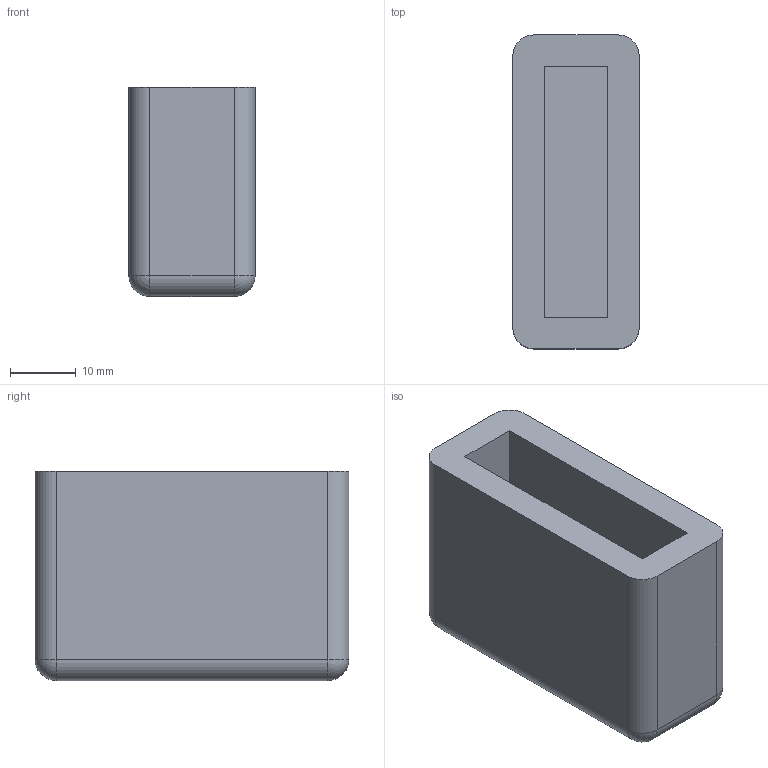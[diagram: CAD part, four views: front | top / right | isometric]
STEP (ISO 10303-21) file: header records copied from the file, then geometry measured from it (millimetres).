
FILE_DESCRIPTION (( 'STEP AP203' ), '1' );
FILE_NAME ('lec.STEP', '2008-02-27T20:03:34', ( '' ), ( '' ), 'SwSTEP 2.0', 'SolidWorks 2007', '' );
FILE_SCHEMA (( 'CONFIG_CONTROL_DESIGN' ));
Length unit declared in the file: inch
Products named in the file (1): lec
Bounding box: 19.18 x 47.62 x 31.75 mm (x, y, z)
Volume: 19114.5 mm3; surface area: 8124.8 mm2
Topology: 1 solids, 1 shells, 23 faces, 52 edges, 28 vertices
Faces by surface type: plane 11, cylinder 8, sphere 4
Entity records: 681 total; most frequent: DIRECTION 112, CARTESIAN_POINT 100, ORIENTED_EDGE 96, EDGE_CURVE 48, AXIS2_PLACEMENT_3D 40, LINE 32, VECTOR 32, VERTEX_POINT 28
